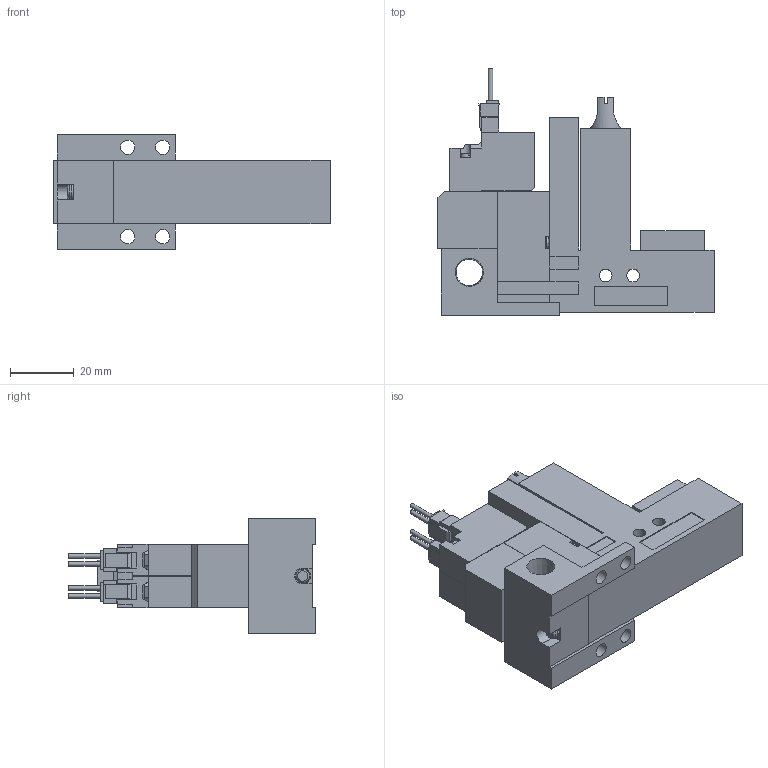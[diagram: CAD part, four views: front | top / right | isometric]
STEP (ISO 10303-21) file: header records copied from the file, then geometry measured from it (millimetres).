
FILE_DESCRIPTION(('STEP AP203'),'1');
FILE_NAME('ZL5BLR101.stp','2025-02-18T05:15:13',(' '),(' '),'Spatial InterOp 3D',' ',' ');
FILE_SCHEMA(('CONFIG_CONTROL_DESIGN'));
Length unit declared in the file: millimetre
Products named in the file (5): BMC22M※※※※ZL5BLR101; Solenoid valve B; Pressure sensor ZL; Unit L; Base MR10R
Assembly tree (4 placements, depth 2):
  BMC22M※※※※ZL5BLR101
    Solenoid valve B
    Pressure sensor ZL
    Unit L
    Base MR10R
Bounding box: 86.6 x 77.45 x 36 mm (x, y, z)
Volume: 81426.7 mm3; surface area: 24467.4 mm2
Topology: 4 solids, 4 shells, 343 faces, 935 edges, 618 vertices
Faces by surface type: plane 292, cylinder 39, cone 9, torus 3
Full cylindrical faces by diameter (mm): 1.4 x4, 2.5 x1, 3 x4, 3.5 x4, 3.6 x1, 4 x2, 4.134 x1, 4.5 x4, 5.2 x1, 6 x1, 6.6 x1, 8.279 x1
Entity records: 10781 total; most frequent: CARTESIAN_POINT 1972, ORIENTED_EDGE 1760, DIRECTION 1690, EDGE_CURVE 880, LINE 756, VECTOR 756, VERTEX_POINT 604, AXIS2_PLACEMENT_3D 467
